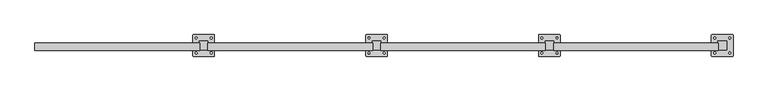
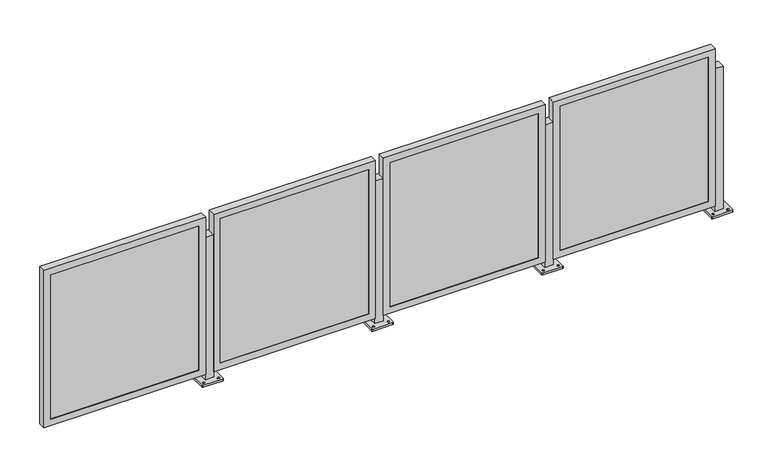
"""IFC4 building model written with IfcOpenShell, lengths in millimetres: railing geometry."""

from ifc_helpers import new_model, si_unit, frame, origin, place, context, project, spatial, polyline, circle_curve, outline, extrude, faceted_brep, source, transform, mapped, element, save
from ifc_brep_helpers import plane_surface, cylinder_surface, revolved_surface, advanced_brep


def railing_e755882f(model_context):
    return source(origin(), model_context, "Body", "SolidModel", [
        advanced_brep(
        [(-18838.3219217, 2095.5584175, 914.4), (-18838.3219217, 2044.7584175, 914.4), (-18787.5219217, 2044.7584175, 914.4), (-18787.5219217, 2095.5584175, 914.4), (-18876.4219219, 2009.8334586, 0.0), (-18876.4219219, 2130.4833765, 0.0), (-18873.2468937, 2133.6584047, 0.0), (-18752.5969497, 2133.6584047, 0.0), (-18749.4219216, 2130.4833765, 0.0), (-18749.4219216, 2009.8334586, 0.0), (-18752.5969497, 2006.6584304, 0.0), (-18873.2468937, 2006.6584304, 0.0), (-18857.3719093, 2020.1521629, 0.0), (-18857.3719093, 2031.2646753, 0.0), (-18857.3719202, 2109.0521673, 0.0), (-18857.3719202, 2120.1646489, 0.0), (-18768.4719083, 2020.1521644, 0.0), (-18768.4719083, 2031.2646751, 0.0), (-18768.4719192, 2109.0521688, 0.0), (-18768.4719192, 2120.1646486, 0.0), (-18838.3219217, 2095.5584175, 12.7), (-18838.3219217, 2044.7584175, 12.7), (-18787.5219217, 2044.7584175, 12.7), (-18787.5219217, 2095.5584175, 12.7), (-18876.4219219, 2009.8334586, 12.7), (-18873.2468937, 2006.6584304, 12.7), (-18752.5969497, 2006.6584304, 12.7), (-18749.4219216, 2009.8334586, 12.7), (-18749.4219216, 2130.4833765, 12.7), (-18752.5969497, 2133.6584047, 12.7), (-18873.2468937, 2133.6584047, 12.7), (-18876.4219219, 2130.4833765, 12.7), (-18857.3719093, 2020.1521629, 12.7), (-18857.3719093, 2031.2646753, 12.7), (-18857.3719202, 2109.0521673, 12.7), (-18857.3719202, 2120.1646489, 12.7), (-18768.4719083, 2020.1521644, 12.7), (-18768.4719083, 2031.2646751, 12.7), (-18768.4719192, 2109.0521688, 12.7), (-18768.4719192, 2120.1646486, 12.7)],
        [
            (0, 1),
            (1, 2),
            (2, 3),
            (3, 0),
            (4, 5),
            (5, 6, circle_curve(frame((-18873.2468937, 2130.4833765, 0.0), z_axis=(0.0, 0.0, -1.0), x_axis=(0.0, 1.0, 0.0)), 3.1750282)),
            (6, 7),
            (7, 8, circle_curve(frame((-18752.5969497, 2130.4833765, 0.0), z_axis=(0.0, 0.0, -1.0), x_axis=(0.0, 1.0, 0.0)), 3.1750282)),
            (8, 9),
            (9, 10, circle_curve(frame((-18752.5969497, 2009.8334586, 0.0), z_axis=(0.0, 0.0, -1.0), x_axis=(0.0, 1.0, 0.0)), 3.1750282)),
            (10, 11),
            (11, 4, circle_curve(frame((-18873.2468937, 2009.8334586, 0.0), z_axis=(0.0, 0.0, -1.0), x_axis=(0.0, 1.0, 0.0)), 3.1750282)),
            (12, 13, circle_curve(frame((-18857.3719093, 2025.7084191, 0.0), z_axis=(0.0, 0.0, 1.0), x_axis=(0.0, 1.0, 0.0)), 5.5562562)),
            (13, 12, circle_curve(frame((-18857.3719093, 2025.7084191, 0.0), z_axis=(0.0, 0.0, 1.0), x_axis=(0.0, 1.0, 0.0)), 5.5562562)),
            (14, 15, circle_curve(frame((-18857.3719202, 2114.6084081, 0.0), z_axis=(0.0, 0.0, 1.0), x_axis=(0.0, 1.0, 0.0)), 5.5562408)),
            (15, 14, circle_curve(frame((-18857.3719202, 2114.6084081, 0.0), z_axis=(0.0, 0.0, 1.0), x_axis=(0.0, 1.0, 0.0)), 5.5562408)),
            (16, 17, circle_curve(frame((-18768.4719083, 2025.7084197, 0.0), z_axis=(0.0, 0.0, 1.0), x_axis=(0.0, 1.0, 0.0)), 5.5562553)),
            (17, 16, circle_curve(frame((-18768.4719083, 2025.7084197, 0.0), z_axis=(0.0, 0.0, 1.0), x_axis=(0.0, 1.0, 0.0)), 5.5562553)),
            (18, 19, circle_curve(frame((-18768.4719192, 2114.6084087, 0.0), z_axis=(0.0, 0.0, 1.0), x_axis=(0.0, 1.0, 0.0)), 5.5562399)),
            (19, 18, circle_curve(frame((-18768.4719192, 2114.6084087, 0.0), z_axis=(0.0, 0.0, 1.0), x_axis=(0.0, 1.0, 0.0)), 5.5562399)),
            (0, 20),
            (20, 21),
            (21, 1),
            (21, 22),
            (22, 2),
            (22, 23),
            (23, 3),
            (23, 20),
            (24, 25, circle_curve(frame((-18873.2468937, 2009.8334586, 12.7), z_axis=(0.0, 0.0, 1.0), x_axis=(0.0, 1.0, 0.0)), 3.1750282)),
            (25, 26),
            (26, 27, circle_curve(frame((-18752.5969497, 2009.8334586, 12.7), z_axis=(0.0, 0.0, 1.0), x_axis=(0.0, 1.0, 0.0)), 3.1750282)),
            (27, 28),
            (28, 29, circle_curve(frame((-18752.5969497, 2130.4833765, 12.7), z_axis=(0.0, 0.0, 1.0), x_axis=(0.0, 1.0, 0.0)), 3.1750282)),
            (29, 30),
            (30, 31, circle_curve(frame((-18873.2468937, 2130.4833765, 12.7), z_axis=(0.0, 0.0, 1.0), x_axis=(0.0, 1.0, 0.0)), 3.1750282)),
            (31, 24),
            (32, 33, circle_curve(frame((-18857.3719093, 2025.7084191, 12.7), z_axis=(0.0, 0.0, -1.0), x_axis=(0.0, 1.0, 0.0)), 5.5562562)),
            (33, 32, circle_curve(frame((-18857.3719093, 2025.7084191, 12.7), z_axis=(0.0, 0.0, -1.0), x_axis=(0.0, 1.0, 0.0)), 5.5562562)),
            (34, 35, circle_curve(frame((-18857.3719202, 2114.6084081, 12.7), z_axis=(0.0, 0.0, -1.0), x_axis=(0.0, 1.0, 0.0)), 5.5562408)),
            (35, 34, circle_curve(frame((-18857.3719202, 2114.6084081, 12.7), z_axis=(0.0, 0.0, -1.0), x_axis=(0.0, 1.0, 0.0)), 5.5562408)),
            (36, 37, circle_curve(frame((-18768.4719083, 2025.7084197, 12.7), z_axis=(0.0, 0.0, -1.0), x_axis=(0.0, 1.0, 0.0)), 5.5562553)),
            (37, 36, circle_curve(frame((-18768.4719083, 2025.7084197, 12.7), z_axis=(0.0, 0.0, -1.0), x_axis=(0.0, 1.0, 0.0)), 5.5562553)),
            (38, 39, circle_curve(frame((-18768.4719192, 2114.6084087, 12.7), z_axis=(0.0, 0.0, -1.0), x_axis=(0.0, 1.0, 0.0)), 5.5562399)),
            (39, 38, circle_curve(frame((-18768.4719192, 2114.6084087, 12.7), z_axis=(0.0, 0.0, -1.0), x_axis=(0.0, 1.0, 0.0)), 5.5562399)),
            (24, 4),
            (11, 25),
            (10, 26),
            (9, 27),
            (8, 28),
            (7, 29),
            (6, 30),
            (5, 31),
            (32, 12),
            (13, 33),
            (34, 14),
            (15, 35),
            (36, 16),
            (17, 37),
            (38, 18),
            (19, 39),
        ],
        [
            plane_surface(frame((-18838.3219217, 2044.7584175, 914.4), z_axis=(0.0, 0.0, 1.0), x_axis=(0.0, -1.0, 0.0))),
            plane_surface(frame((-18838.3219217, 2044.7584175, 0.0), z_axis=(0.0, 0.0, -1.0), x_axis=(0.0, 1.0, 0.0))),
            plane_surface(frame((-18838.3219217, 2095.5584175, 914.4), z_axis=(-1.0, 0.0, 0.0), x_axis=(0.0, 0.0, -1.0))),
            plane_surface(frame((-18838.3219217, 2044.7584175, 914.4), z_axis=(0.0, -1.0, 0.0), x_axis=(0.0, 0.0, -1.0))),
            plane_surface(frame((-18787.5219217, 2044.7584175, 914.4), z_axis=(1.0, 0.0, 0.0), x_axis=(0.0, 0.0, -1.0))),
            plane_surface(frame((-18787.5219217, 2095.5584175, 914.4), z_axis=(0.0, 1.0, 0.0), x_axis=(0.0, 0.0, -1.0))),
            plane_surface(frame((-18873.2468937, 2013.0084867, 12.7), z_axis=(0.0, 0.0, 1.0), x_axis=(-1.0, 0.0, 0.0))),
            cylinder_surface(frame((-18873.2468937, 2009.8334586, 0.0), z_axis=(0.0, 0.0, 1.0), x_axis=(0.0, 1.0, 0.0)), 3.1750282),
            plane_surface(frame((-18873.2468937, 2006.6584304, 12.7), z_axis=(1.1945386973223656e-12, -1.0, 0.0), x_axis=(0.0, 0.0, -1.0))),
            cylinder_surface(frame((-18752.5969497, 2009.8334586, 0.0), z_axis=(0.0, 0.0, 1.0), x_axis=(0.0, 1.0, 0.0)), 3.1750282),
            plane_surface(frame((-18749.4219216, 2009.8334586, 12.7), z_axis=(1.0, 0.0, 0.0), x_axis=(0.0, 0.0, -1.0))),
            cylinder_surface(frame((-18752.5969497, 2130.4833765, 0.0), z_axis=(0.0, 0.0, 1.0), x_axis=(0.0, 1.0, 0.0)), 3.1750282),
            plane_surface(frame((-18752.5969497, 2133.6584047, 12.7), z_axis=(-1.1946088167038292e-12, 1.0, 0.0), x_axis=(0.0, 0.0, -1.0))),
            cylinder_surface(frame((-18873.2468937, 2130.4833765, 0.0), z_axis=(0.0, 0.0, 1.0), x_axis=(0.0, 1.0, 0.0)), 3.1750282),
            plane_surface(frame((-18876.4219219, 2130.4833765, 12.7), z_axis=(-1.0, 0.0, 0.0), x_axis=(0.0, 0.0, -1.0))),
            revolved_surface(polyline([(-18857.3719093, 2031.2646753, 0.0), (-18857.3719093, 2031.2646753, 12.7)]), (-18857.3719093, 2025.7084191, 0.0), (0.0, 0.0, -1.0)),
            revolved_surface(polyline([(-18857.3719202, 2120.1646489, 0.0), (-18857.3719202, 2120.1646489, 12.7)]), (-18857.3719202, 2114.6084081, 0.0), (0.0, 0.0, -1.0)),
            revolved_surface(polyline([(-18768.4719083, 2031.264675, 0.0), (-18768.4719083, 2031.264675, 12.7)]), (-18768.4719083, 2025.7084197, 0.0), (0.0, 0.0, -1.0)),
            revolved_surface(polyline([(-18768.4719192, 2120.1646486, 0.0), (-18768.4719192, 2120.1646486, 12.7)]), (-18768.4719192, 2114.6084087, 0.0), (0.0, 0.0, -1.0)),
        ],
        [
            (0, [[1, 2, 3, 4]]),
            (1, [[5, 6, 7, 8, 9, 10, 11, 12], [13, 14], [15, 16], [17, 18], [19, 20]]),
            (2, [[-1, 21, 22, 23]]),
            (3, [[-2, -23, 24, 25]]),
            (4, [[-3, -25, 26, 27]]),
            (5, [[-4, -27, 28, -21]]),
            (6, [[29, 30, 31, 32, 33, 34, 35, 36], [-22, -28, -26, -24], [37, 38], [39, 40], [41, 42], [43, 44]]),
            (7, [[-29, 45, -12, 46]]),
            (8, [[-30, -46, -11, 47]]),
            (9, [[-31, -47, -10, 48]]),
            (10, [[-32, -48, -9, 49]]),
            (11, [[-33, -49, -8, 50]]),
            (12, [[-34, -50, -7, 51]]),
            (13, [[-35, -51, -6, 52]]),
            (14, [[-36, -52, -5, -45]]),
            (15, [[-37, 53, -14, 54]]),
            (15, [[-38, -54, -13, -53]]),
            (16, [[-39, 55, -16, 56]]),
            (16, [[-40, -56, -15, -55]]),
            (17, [[-41, 57, -18, 58]]),
            (17, [[-42, -58, -17, -57]]),
            (18, [[-43, 59, -20, 60]]),
            (18, [[-44, -60, -19, -59]]),
        ],
    ),
        faceted_brep([(-19804.7263751, 2042.0152175, 47.625), (-18836.3513751, 2042.0152175, 47.625), (-18836.3513751, 2042.0152175, 1044.575), (-19804.7263751, 2042.0152175, 1044.575), (-19763.4513751, 2042.0152175, 1003.3), (-18877.6263751, 2042.0152175, 1003.3), (-18877.6263751, 2042.0152175, 88.9), (-19763.4513751, 2042.0152175, 88.9), (-19763.4513751, 2044.7584175, 1003.3), (-19763.4513751, 2044.7584175, 88.9), (-19804.7263751, 2085.8885141, 1044.575), (-19804.7263751, 2085.8885141, 47.625), (-19801.5513751, 2085.8885141, 1041.4), (-19801.5513751, 2044.7584175, 1041.4), (-19801.5513751, 2044.7584175, 50.8), (-19801.5513751, 2085.8885141, 50.8), (-18877.6263751, 2044.7584175, 88.9), (-18836.3513751, 2085.8885141, 47.625), (-18839.5263751, 2044.7584175, 50.8), (-18839.5263751, 2085.8885141, 50.8), (-18877.6263751, 2044.7584175, 1003.3), (-18836.3513751, 2085.8885141, 1044.575), (-18839.5263751, 2044.7584175, 1041.4), (-18839.5263751, 2085.8885141, 1041.4)], [[[0, 1, 2, 3], [4, 5, 6, 7]], [[8, 4, 7, 9]], [[3, 10, 11, 0]], [[12, 13, 14, 15]], [[9, 7, 6, 16]], [[0, 11, 17, 1]], [[15, 14, 18, 19]], [[16, 6, 5, 20]], [[1, 17, 21, 2]], [[19, 18, 22, 23]], [[20, 5, 4, 8]], [[10, 21, 17, 11], [15, 19, 23, 12]], [[2, 21, 10, 3]], [[13, 22, 18, 14], [9, 16, 20, 8]], [[23, 22, 13, 12]]]),
        extrude(outline(polyline([(-19801.5513751, 2054.2834175), (-18839.5263751, 2054.2834175), (-18839.5263751, 2044.7584175), (-19801.5513751, 2044.7584175), (-19801.5513751, 2054.2834175)])), frame((0.0, 0.0, 50.8), z_axis=(0.0, 0.0, 1.0), x_axis=(1.0, 0.0, 0.0)), (0.0, 0.0, 1.0), 990.6),
        advanced_brep(
        [(-19854.3219217, 2095.5584175, 914.4), (-19854.3219217, 2044.7584175, 914.4), (-19803.5219217, 2044.7584175, 914.4), (-19803.5219217, 2095.5584175, 914.4), (-19892.4219219, 2009.8334586, 0.0), (-19892.4219219, 2130.4833765, 0.0), (-19889.2468937, 2133.6584047, 0.0), (-19768.5969497, 2133.6584047, 0.0), (-19765.4219216, 2130.4833765, 0.0), (-19765.4219216, 2009.8334586, 0.0), (-19768.5969497, 2006.6584304, 0.0), (-19889.2468937, 2006.6584304, 0.0), (-19873.3719093, 2020.1521629, 0.0), (-19873.3719093, 2031.2646753, 0.0), (-19873.3719202, 2109.0521673, 0.0), (-19873.3719202, 2120.1646489, 0.0), (-19784.4719083, 2020.1521644, 0.0), (-19784.4719083, 2031.2646751, 0.0), (-19784.4719192, 2109.0521688, 0.0), (-19784.4719192, 2120.1646486, 0.0), (-19854.3219217, 2095.5584175, 12.7), (-19854.3219217, 2044.7584175, 12.7), (-19803.5219217, 2044.7584175, 12.7), (-19803.5219217, 2095.5584175, 12.7), (-19892.4219219, 2009.8334586, 12.7), (-19889.2468937, 2006.6584304, 12.7), (-19768.5969497, 2006.6584304, 12.7), (-19765.4219216, 2009.8334586, 12.7), (-19765.4219216, 2130.4833765, 12.7), (-19768.5969497, 2133.6584047, 12.7), (-19889.2468937, 2133.6584047, 12.7), (-19892.4219219, 2130.4833765, 12.7), (-19873.3719093, 2020.1521629, 12.7), (-19873.3719093, 2031.2646753, 12.7), (-19873.3719202, 2109.0521673, 12.7), (-19873.3719202, 2120.1646489, 12.7), (-19784.4719083, 2020.1521644, 12.7), (-19784.4719083, 2031.2646751, 12.7), (-19784.4719192, 2109.0521688, 12.7), (-19784.4719192, 2120.1646486, 12.7)],
        [
            (0, 1),
            (1, 2),
            (2, 3),
            (3, 0),
            (4, 5),
            (5, 6, circle_curve(frame((-19889.2468937, 2130.4833765, 0.0), z_axis=(0.0, 0.0, -1.0), x_axis=(0.0, 1.0, 0.0)), 3.1750282)),
            (6, 7),
            (7, 8, circle_curve(frame((-19768.5969497, 2130.4833765, 0.0), z_axis=(0.0, 0.0, -1.0), x_axis=(0.0, 1.0, 0.0)), 3.1750282)),
            (8, 9),
            (9, 10, circle_curve(frame((-19768.5969497, 2009.8334586, 0.0), z_axis=(0.0, 0.0, -1.0), x_axis=(0.0, 1.0, 0.0)), 3.1750282)),
            (10, 11),
            (11, 4, circle_curve(frame((-19889.2468937, 2009.8334586, 0.0), z_axis=(0.0, 0.0, -1.0), x_axis=(0.0, 1.0, 0.0)), 3.1750282)),
            (12, 13, circle_curve(frame((-19873.3719093, 2025.7084191, 0.0), z_axis=(0.0, 0.0, 1.0), x_axis=(0.0, 1.0, 0.0)), 5.5562562)),
            (13, 12, circle_curve(frame((-19873.3719093, 2025.7084191, 0.0), z_axis=(0.0, 0.0, 1.0), x_axis=(0.0, 1.0, 0.0)), 5.5562562)),
            (14, 15, circle_curve(frame((-19873.3719202, 2114.6084081, 0.0), z_axis=(0.0, 0.0, 1.0), x_axis=(0.0, 1.0, 0.0)), 5.5562408)),
            (15, 14, circle_curve(frame((-19873.3719202, 2114.6084081, 0.0), z_axis=(0.0, 0.0, 1.0), x_axis=(0.0, 1.0, 0.0)), 5.5562408)),
            (16, 17, circle_curve(frame((-19784.4719083, 2025.7084197, 0.0), z_axis=(0.0, 0.0, 1.0), x_axis=(0.0, 1.0, 0.0)), 5.5562553)),
            (17, 16, circle_curve(frame((-19784.4719083, 2025.7084197, 0.0), z_axis=(0.0, 0.0, 1.0), x_axis=(0.0, 1.0, 0.0)), 5.5562553)),
            (18, 19, circle_curve(frame((-19784.4719192, 2114.6084087, 0.0), z_axis=(0.0, 0.0, 1.0), x_axis=(0.0, 1.0, 0.0)), 5.5562399)),
            (19, 18, circle_curve(frame((-19784.4719192, 2114.6084087, 0.0), z_axis=(0.0, 0.0, 1.0), x_axis=(0.0, 1.0, 0.0)), 5.5562399)),
            (0, 20),
            (20, 21),
            (21, 1),
            (21, 22),
            (22, 2),
            (22, 23),
            (23, 3),
            (23, 20),
            (24, 25, circle_curve(frame((-19889.2468937, 2009.8334586, 12.7), z_axis=(0.0, 0.0, 1.0), x_axis=(0.0, 1.0, 0.0)), 3.1750282)),
            (25, 26),
            (26, 27, circle_curve(frame((-19768.5969497, 2009.8334586, 12.7), z_axis=(0.0, 0.0, 1.0), x_axis=(0.0, 1.0, 0.0)), 3.1750282)),
            (27, 28),
            (28, 29, circle_curve(frame((-19768.5969497, 2130.4833765, 12.7), z_axis=(0.0, 0.0, 1.0), x_axis=(0.0, 1.0, 0.0)), 3.1750282)),
            (29, 30),
            (30, 31, circle_curve(frame((-19889.2468937, 2130.4833765, 12.7), z_axis=(0.0, 0.0, 1.0), x_axis=(0.0, 1.0, 0.0)), 3.1750282)),
            (31, 24),
            (32, 33, circle_curve(frame((-19873.3719093, 2025.7084191, 12.7), z_axis=(0.0, 0.0, -1.0), x_axis=(0.0, 1.0, 0.0)), 5.5562562)),
            (33, 32, circle_curve(frame((-19873.3719093, 2025.7084191, 12.7), z_axis=(0.0, 0.0, -1.0), x_axis=(0.0, 1.0, 0.0)), 5.5562562)),
            (34, 35, circle_curve(frame((-19873.3719202, 2114.6084081, 12.7), z_axis=(0.0, 0.0, -1.0), x_axis=(0.0, 1.0, 0.0)), 5.5562408)),
            (35, 34, circle_curve(frame((-19873.3719202, 2114.6084081, 12.7), z_axis=(0.0, 0.0, -1.0), x_axis=(0.0, 1.0, 0.0)), 5.5562408)),
            (36, 37, circle_curve(frame((-19784.4719083, 2025.7084197, 12.7), z_axis=(0.0, 0.0, -1.0), x_axis=(0.0, 1.0, 0.0)), 5.5562553)),
            (37, 36, circle_curve(frame((-19784.4719083, 2025.7084197, 12.7), z_axis=(0.0, 0.0, -1.0), x_axis=(0.0, 1.0, 0.0)), 5.5562553)),
            (38, 39, circle_curve(frame((-19784.4719192, 2114.6084087, 12.7), z_axis=(0.0, 0.0, -1.0), x_axis=(0.0, 1.0, 0.0)), 5.5562399)),
            (39, 38, circle_curve(frame((-19784.4719192, 2114.6084087, 12.7), z_axis=(0.0, 0.0, -1.0), x_axis=(0.0, 1.0, 0.0)), 5.5562399)),
            (24, 4),
            (11, 25),
            (10, 26),
            (9, 27),
            (8, 28),
            (7, 29),
            (6, 30),
            (5, 31),
            (32, 12),
            (13, 33),
            (34, 14),
            (15, 35),
            (36, 16),
            (17, 37),
            (38, 18),
            (19, 39),
        ],
        [
            plane_surface(frame((-19854.3219217, 2044.7584175, 914.4), z_axis=(0.0, 0.0, 1.0), x_axis=(0.0, -1.0, 0.0))),
            plane_surface(frame((-19854.3219217, 2044.7584175, 0.0), z_axis=(0.0, 0.0, -1.0), x_axis=(0.0, 1.0, 0.0))),
            plane_surface(frame((-19854.3219217, 2095.5584175, 914.4), z_axis=(-1.0, 0.0, 0.0), x_axis=(0.0, 0.0, -1.0))),
            plane_surface(frame((-19854.3219217, 2044.7584175, 914.4), z_axis=(0.0, -1.0, 0.0), x_axis=(0.0, 0.0, -1.0))),
            plane_surface(frame((-19803.5219217, 2044.7584175, 914.4), z_axis=(1.0, 0.0, 0.0), x_axis=(0.0, 0.0, -1.0))),
            plane_surface(frame((-19803.5219217, 2095.5584175, 914.4), z_axis=(0.0, 1.0, 0.0), x_axis=(0.0, 0.0, -1.0))),
            plane_surface(frame((-19889.2468937, 2013.0084867, 12.7), z_axis=(0.0, 0.0, 1.0), x_axis=(-1.0, 0.0, 0.0))),
            cylinder_surface(frame((-19889.2468937, 2009.8334586, 0.0), z_axis=(0.0, 0.0, 1.0), x_axis=(0.0, 1.0, 0.0)), 3.1750282),
            plane_surface(frame((-19889.2468937, 2006.6584304, 12.7), z_axis=(1.1945386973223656e-12, -1.0, 0.0), x_axis=(0.0, 0.0, -1.0))),
            cylinder_surface(frame((-19768.5969497, 2009.8334586, 0.0), z_axis=(0.0, 0.0, 1.0), x_axis=(0.0, 1.0, 0.0)), 3.1750282),
            plane_surface(frame((-19765.4219216, 2009.8334586, 12.7), z_axis=(1.0, 0.0, 0.0), x_axis=(0.0, 0.0, -1.0))),
            cylinder_surface(frame((-19768.5969497, 2130.4833765, 0.0), z_axis=(0.0, 0.0, 1.0), x_axis=(0.0, 1.0, 0.0)), 3.1750282),
            plane_surface(frame((-19768.5969497, 2133.6584047, 12.7), z_axis=(-1.1946088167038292e-12, 1.0, 0.0), x_axis=(0.0, 0.0, -1.0))),
            cylinder_surface(frame((-19889.2468937, 2130.4833765, 0.0), z_axis=(0.0, 0.0, 1.0), x_axis=(0.0, 1.0, 0.0)), 3.1750282),
            plane_surface(frame((-19892.4219219, 2130.4833765, 12.7), z_axis=(-1.0, 0.0, 0.0), x_axis=(0.0, 0.0, -1.0))),
            revolved_surface(polyline([(-19873.3719093, 2031.2646753, 0.0), (-19873.3719093, 2031.2646753, 12.7)]), (-19873.3719093, 2025.7084191, 0.0), (0.0, 0.0, -1.0)),
            revolved_surface(polyline([(-19873.3719202, 2120.1646489, 0.0), (-19873.3719202, 2120.1646489, 12.7)]), (-19873.3719202, 2114.6084081, 0.0), (0.0, 0.0, -1.0)),
            revolved_surface(polyline([(-19784.4719083, 2031.264675, 0.0), (-19784.4719083, 2031.264675, 12.7)]), (-19784.4719083, 2025.7084197, 0.0), (0.0, 0.0, -1.0)),
            revolved_surface(polyline([(-19784.4719192, 2120.1646486, 0.0), (-19784.4719192, 2120.1646486, 12.7)]), (-19784.4719192, 2114.6084087, 0.0), (0.0, 0.0, -1.0)),
        ],
        [
            (0, [[1, 2, 3, 4]]),
            (1, [[5, 6, 7, 8, 9, 10, 11, 12], [13, 14], [15, 16], [17, 18], [19, 20]]),
            (2, [[-1, 21, 22, 23]]),
            (3, [[-2, -23, 24, 25]]),
            (4, [[-3, -25, 26, 27]]),
            (5, [[-4, -27, 28, -21]]),
            (6, [[29, 30, 31, 32, 33, 34, 35, 36], [-22, -28, -26, -24], [37, 38], [39, 40], [41, 42], [43, 44]]),
            (7, [[-29, 45, -12, 46]]),
            (8, [[-30, -46, -11, 47]]),
            (9, [[-31, -47, -10, 48]]),
            (10, [[-32, -48, -9, 49]]),
            (11, [[-33, -49, -8, 50]]),
            (12, [[-34, -50, -7, 51]]),
            (13, [[-35, -51, -6, 52]]),
            (14, [[-36, -52, -5, -45]]),
            (15, [[-37, 53, -14, 54]]),
            (15, [[-38, -54, -13, -53]]),
            (16, [[-39, 55, -16, 56]]),
            (16, [[-40, -56, -15, -55]]),
            (17, [[-41, 57, -18, 58]]),
            (17, [[-42, -58, -17, -57]]),
            (18, [[-43, 59, -20, 60]]),
            (18, [[-44, -60, -19, -59]]),
        ],
    ),
        faceted_brep([(-20820.7263751, 2042.0152175, 47.625), (-19852.3513751, 2042.0152175, 47.625), (-19852.3513751, 2042.0152175, 1044.575), (-20820.7263751, 2042.0152175, 1044.575), (-20779.4513751, 2042.0152175, 1003.3), (-19893.6263751, 2042.0152175, 1003.3), (-19893.6263751, 2042.0152175, 88.9), (-20779.4513751, 2042.0152175, 88.9), (-20779.4513751, 2044.7584175, 1003.3), (-20779.4513751, 2044.7584175, 88.9), (-20820.7263751, 2085.8885141, 1044.575), (-20820.7263751, 2085.8885141, 47.625), (-20817.5513751, 2085.8885141, 1041.4), (-20817.5513751, 2044.7584175, 1041.4), (-20817.5513751, 2044.7584175, 50.8), (-20817.5513751, 2085.8885141, 50.8), (-19893.6263751, 2044.7584175, 88.9), (-19852.3513751, 2085.8885141, 47.625), (-19855.5263751, 2044.7584175, 50.8), (-19855.5263751, 2085.8885141, 50.8), (-19893.6263751, 2044.7584175, 1003.3), (-19852.3513751, 2085.8885141, 1044.575), (-19855.5263751, 2044.7584175, 1041.4), (-19855.5263751, 2085.8885141, 1041.4)], [[[0, 1, 2, 3], [4, 5, 6, 7]], [[8, 4, 7, 9]], [[3, 10, 11, 0]], [[12, 13, 14, 15]], [[9, 7, 6, 16]], [[0, 11, 17, 1]], [[15, 14, 18, 19]], [[16, 6, 5, 20]], [[1, 17, 21, 2]], [[19, 18, 22, 23]], [[20, 5, 4, 8]], [[10, 21, 17, 11], [15, 19, 23, 12]], [[2, 21, 10, 3]], [[13, 22, 18, 14], [9, 16, 20, 8]], [[23, 22, 13, 12]]]),
        extrude(outline(polyline([(-20817.5513751, 2054.2834175), (-19855.5263751, 2054.2834175), (-19855.5263751, 2044.7584175), (-20817.5513751, 2044.7584175), (-20817.5513751, 2054.2834175)])), frame((0.0, 0.0, 50.8), z_axis=(0.0, 0.0, 1.0), x_axis=(1.0, 0.0, 0.0)), (0.0, 0.0, 1.0), 990.6),
        advanced_brep(
        [(-20870.3219217, 2095.5584175, 914.4), (-20870.3219217, 2044.7584175, 914.4), (-20819.5219217, 2044.7584175, 914.4), (-20819.5219217, 2095.5584175, 914.4), (-20908.4219219, 2009.8334586, 0.0), (-20908.4219219, 2130.4833765, 0.0), (-20905.2468937, 2133.6584047, 0.0), (-20784.5969497, 2133.6584047, 0.0), (-20781.4219216, 2130.4833765, 0.0), (-20781.4219216, 2009.8334586, 0.0), (-20784.5969497, 2006.6584304, 0.0), (-20905.2468937, 2006.6584304, 0.0), (-20889.3719093, 2020.1521629, 0.0), (-20889.3719093, 2031.2646753, 0.0), (-20889.3719202, 2109.0521673, 0.0), (-20889.3719202, 2120.1646489, 0.0), (-20800.4719083, 2020.1521644, 0.0), (-20800.4719083, 2031.2646751, 0.0), (-20800.4719192, 2109.0521688, 0.0), (-20800.4719192, 2120.1646486, 0.0), (-20870.3219217, 2095.5584175, 12.7), (-20870.3219217, 2044.7584175, 12.7), (-20819.5219217, 2044.7584175, 12.7), (-20819.5219217, 2095.5584175, 12.7), (-20908.4219219, 2009.8334586, 12.7), (-20905.2468937, 2006.6584304, 12.7), (-20784.5969497, 2006.6584304, 12.7), (-20781.4219216, 2009.8334586, 12.7), (-20781.4219216, 2130.4833765, 12.7), (-20784.5969497, 2133.6584047, 12.7), (-20905.2468937, 2133.6584047, 12.7), (-20908.4219219, 2130.4833765, 12.7), (-20889.3719093, 2020.1521629, 12.7), (-20889.3719093, 2031.2646753, 12.7), (-20889.3719202, 2109.0521673, 12.7), (-20889.3719202, 2120.1646489, 12.7), (-20800.4719083, 2020.1521644, 12.7), (-20800.4719083, 2031.2646751, 12.7), (-20800.4719192, 2109.0521688, 12.7), (-20800.4719192, 2120.1646486, 12.7)],
        [
            (0, 1),
            (1, 2),
            (2, 3),
            (3, 0),
            (4, 5),
            (5, 6, circle_curve(frame((-20905.2468937, 2130.4833765, 0.0), z_axis=(0.0, 0.0, -1.0), x_axis=(0.0, 1.0, 0.0)), 3.1750282)),
            (6, 7),
            (7, 8, circle_curve(frame((-20784.5969497, 2130.4833765, 0.0), z_axis=(0.0, 0.0, -1.0), x_axis=(0.0, 1.0, 0.0)), 3.1750282)),
            (8, 9),
            (9, 10, circle_curve(frame((-20784.5969497, 2009.8334586, 0.0), z_axis=(0.0, 0.0, -1.0), x_axis=(0.0, 1.0, 0.0)), 3.1750282)),
            (10, 11),
            (11, 4, circle_curve(frame((-20905.2468937, 2009.8334586, 0.0), z_axis=(0.0, 0.0, -1.0), x_axis=(0.0, 1.0, 0.0)), 3.1750282)),
            (12, 13, circle_curve(frame((-20889.3719093, 2025.7084191, 0.0), z_axis=(0.0, 0.0, 1.0), x_axis=(0.0, 1.0, 0.0)), 5.5562562)),
            (13, 12, circle_curve(frame((-20889.3719093, 2025.7084191, 0.0), z_axis=(0.0, 0.0, 1.0), x_axis=(0.0, 1.0, 0.0)), 5.5562562)),
            (14, 15, circle_curve(frame((-20889.3719202, 2114.6084081, 0.0), z_axis=(0.0, 0.0, 1.0), x_axis=(0.0, 1.0, 0.0)), 5.5562408)),
            (15, 14, circle_curve(frame((-20889.3719202, 2114.6084081, 0.0), z_axis=(0.0, 0.0, 1.0), x_axis=(0.0, 1.0, 0.0)), 5.5562408)),
            (16, 17, circle_curve(frame((-20800.4719083, 2025.7084197, 0.0), z_axis=(0.0, 0.0, 1.0), x_axis=(0.0, 1.0, 0.0)), 5.5562553)),
            (17, 16, circle_curve(frame((-20800.4719083, 2025.7084197, 0.0), z_axis=(0.0, 0.0, 1.0), x_axis=(0.0, 1.0, 0.0)), 5.5562553)),
            (18, 19, circle_curve(frame((-20800.4719192, 2114.6084087, 0.0), z_axis=(0.0, 0.0, 1.0), x_axis=(0.0, 1.0, 0.0)), 5.5562399)),
            (19, 18, circle_curve(frame((-20800.4719192, 2114.6084087, 0.0), z_axis=(0.0, 0.0, 1.0), x_axis=(0.0, 1.0, 0.0)), 5.5562399)),
            (0, 20),
            (20, 21),
            (21, 1),
            (21, 22),
            (22, 2),
            (22, 23),
            (23, 3),
            (23, 20),
            (24, 25, circle_curve(frame((-20905.2468937, 2009.8334586, 12.7), z_axis=(0.0, 0.0, 1.0), x_axis=(0.0, 1.0, 0.0)), 3.1750282)),
            (25, 26),
            (26, 27, circle_curve(frame((-20784.5969497, 2009.8334586, 12.7), z_axis=(0.0, 0.0, 1.0), x_axis=(0.0, 1.0, 0.0)), 3.1750282)),
            (27, 28),
            (28, 29, circle_curve(frame((-20784.5969497, 2130.4833765, 12.7), z_axis=(0.0, 0.0, 1.0), x_axis=(0.0, 1.0, 0.0)), 3.1750282)),
            (29, 30),
            (30, 31, circle_curve(frame((-20905.2468937, 2130.4833765, 12.7), z_axis=(0.0, 0.0, 1.0), x_axis=(0.0, 1.0, 0.0)), 3.1750282)),
            (31, 24),
            (32, 33, circle_curve(frame((-20889.3719093, 2025.7084191, 12.7), z_axis=(0.0, 0.0, -1.0), x_axis=(0.0, 1.0, 0.0)), 5.5562562)),
            (33, 32, circle_curve(frame((-20889.3719093, 2025.7084191, 12.7), z_axis=(0.0, 0.0, -1.0), x_axis=(0.0, 1.0, 0.0)), 5.5562562)),
            (34, 35, circle_curve(frame((-20889.3719202, 2114.6084081, 12.7), z_axis=(0.0, 0.0, -1.0), x_axis=(0.0, 1.0, 0.0)), 5.5562408)),
            (35, 34, circle_curve(frame((-20889.3719202, 2114.6084081, 12.7), z_axis=(0.0, 0.0, -1.0), x_axis=(0.0, 1.0, 0.0)), 5.5562408)),
            (36, 37, circle_curve(frame((-20800.4719083, 2025.7084197, 12.7), z_axis=(0.0, 0.0, -1.0), x_axis=(0.0, 1.0, 0.0)), 5.5562553)),
            (37, 36, circle_curve(frame((-20800.4719083, 2025.7084197, 12.7), z_axis=(0.0, 0.0, -1.0), x_axis=(0.0, 1.0, 0.0)), 5.5562553)),
            (38, 39, circle_curve(frame((-20800.4719192, 2114.6084087, 12.7), z_axis=(0.0, 0.0, -1.0), x_axis=(0.0, 1.0, 0.0)), 5.5562399)),
            (39, 38, circle_curve(frame((-20800.4719192, 2114.6084087, 12.7), z_axis=(0.0, 0.0, -1.0), x_axis=(0.0, 1.0, 0.0)), 5.5562399)),
            (24, 4),
            (11, 25),
            (10, 26),
            (9, 27),
            (8, 28),
            (7, 29),
            (6, 30),
            (5, 31),
            (32, 12),
            (13, 33),
            (34, 14),
            (15, 35),
            (36, 16),
            (17, 37),
            (38, 18),
            (19, 39),
        ],
        [
            plane_surface(frame((-20870.3219217, 2044.7584175, 914.4), z_axis=(0.0, 0.0, 1.0), x_axis=(0.0, -1.0, 0.0))),
            plane_surface(frame((-20870.3219217, 2044.7584175, 0.0), z_axis=(0.0, 0.0, -1.0), x_axis=(0.0, 1.0, 0.0))),
            plane_surface(frame((-20870.3219217, 2095.5584175, 914.4), z_axis=(-1.0, 0.0, 0.0), x_axis=(0.0, 0.0, -1.0))),
            plane_surface(frame((-20870.3219217, 2044.7584175, 914.4), z_axis=(0.0, -1.0, 0.0), x_axis=(0.0, 0.0, -1.0))),
            plane_surface(frame((-20819.5219217, 2044.7584175, 914.4), z_axis=(1.0, 0.0, 0.0), x_axis=(0.0, 0.0, -1.0))),
            plane_surface(frame((-20819.5219217, 2095.5584175, 914.4), z_axis=(0.0, 1.0, 0.0), x_axis=(0.0, 0.0, -1.0))),
            plane_surface(frame((-20905.2468937, 2013.0084867, 12.7), z_axis=(0.0, 0.0, 1.0), x_axis=(-1.0, 0.0, 0.0))),
            cylinder_surface(frame((-20905.2468937, 2009.8334586, 0.0), z_axis=(0.0, 0.0, 1.0), x_axis=(0.0, 1.0, 0.0)), 3.1750282),
            plane_surface(frame((-20905.2468937, 2006.6584304, 12.7), z_axis=(1.1945386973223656e-12, -1.0, 0.0), x_axis=(0.0, 0.0, -1.0))),
            cylinder_surface(frame((-20784.5969497, 2009.8334586, 0.0), z_axis=(0.0, 0.0, 1.0), x_axis=(0.0, 1.0, 0.0)), 3.1750282),
            plane_surface(frame((-20781.4219216, 2009.8334586, 12.7), z_axis=(1.0, 0.0, 0.0), x_axis=(0.0, 0.0, -1.0))),
            cylinder_surface(frame((-20784.5969497, 2130.4833765, 0.0), z_axis=(0.0, 0.0, 1.0), x_axis=(0.0, 1.0, 0.0)), 3.1750282),
            plane_surface(frame((-20784.5969497, 2133.6584047, 12.7), z_axis=(-1.1946088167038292e-12, 1.0, 0.0), x_axis=(0.0, 0.0, -1.0))),
            cylinder_surface(frame((-20905.2468937, 2130.4833765, 0.0), z_axis=(0.0, 0.0, 1.0), x_axis=(0.0, 1.0, 0.0)), 3.1750282),
            plane_surface(frame((-20908.4219219, 2130.4833765, 12.7), z_axis=(-1.0, 0.0, 0.0), x_axis=(0.0, 0.0, -1.0))),
            revolved_surface(polyline([(-20889.3719093, 2031.2646753, 0.0), (-20889.3719093, 2031.2646753, 12.7)]), (-20889.3719093, 2025.7084191, 0.0), (0.0, 0.0, -1.0)),
            revolved_surface(polyline([(-20889.3719202, 2120.1646489, 0.0), (-20889.3719202, 2120.1646489, 12.7)]), (-20889.3719202, 2114.6084081, 0.0), (0.0, 0.0, -1.0)),
            revolved_surface(polyline([(-20800.4719083, 2031.264675, 0.0), (-20800.4719083, 2031.264675, 12.7)]), (-20800.4719083, 2025.7084197, 0.0), (0.0, 0.0, -1.0)),
            revolved_surface(polyline([(-20800.4719192, 2120.1646486, 0.0), (-20800.4719192, 2120.1646486, 12.7)]), (-20800.4719192, 2114.6084087, 0.0), (0.0, 0.0, -1.0)),
        ],
        [
            (0, [[1, 2, 3, 4]]),
            (1, [[5, 6, 7, 8, 9, 10, 11, 12], [13, 14], [15, 16], [17, 18], [19, 20]]),
            (2, [[-1, 21, 22, 23]]),
            (3, [[-2, -23, 24, 25]]),
            (4, [[-3, -25, 26, 27]]),
            (5, [[-4, -27, 28, -21]]),
            (6, [[29, 30, 31, 32, 33, 34, 35, 36], [-22, -28, -26, -24], [37, 38], [39, 40], [41, 42], [43, 44]]),
            (7, [[-29, 45, -12, 46]]),
            (8, [[-30, -46, -11, 47]]),
            (9, [[-31, -47, -10, 48]]),
            (10, [[-32, -48, -9, 49]]),
            (11, [[-33, -49, -8, 50]]),
            (12, [[-34, -50, -7, 51]]),
            (13, [[-35, -51, -6, 52]]),
            (14, [[-36, -52, -5, -45]]),
            (15, [[-37, 53, -14, 54]]),
            (15, [[-38, -54, -13, -53]]),
            (16, [[-39, 55, -16, 56]]),
            (16, [[-40, -56, -15, -55]]),
            (17, [[-41, 57, -18, 58]]),
            (17, [[-42, -58, -17, -57]]),
            (18, [[-43, 59, -20, 60]]),
            (18, [[-44, -60, -19, -59]]),
        ],
    ),
        faceted_brep([(-21836.7263751, 2042.0152175, 47.625), (-20868.3513751, 2042.0152175, 47.625), (-20868.3513751, 2042.0152175, 1044.575), (-21836.7263751, 2042.0152175, 1044.575), (-21795.4513751, 2042.0152175, 1003.3), (-20909.6263751, 2042.0152175, 1003.3), (-20909.6263751, 2042.0152175, 88.9), (-21795.4513751, 2042.0152175, 88.9), (-21795.4513751, 2044.7584175, 1003.3), (-21795.4513751, 2044.7584175, 88.9), (-21836.7263751, 2085.8885141, 1044.575), (-21836.7263751, 2085.8885141, 47.625), (-21833.5513751, 2085.8885141, 1041.4), (-21833.5513751, 2044.7584175, 1041.4), (-21833.5513751, 2044.7584175, 50.8), (-21833.5513751, 2085.8885141, 50.8), (-20909.6263751, 2044.7584175, 88.9), (-20868.3513751, 2085.8885141, 47.625), (-20871.5263751, 2044.7584175, 50.8), (-20871.5263751, 2085.8885141, 50.8), (-20909.6263751, 2044.7584175, 1003.3), (-20868.3513751, 2085.8885141, 1044.575), (-20871.5263751, 2044.7584175, 1041.4), (-20871.5263751, 2085.8885141, 1041.4)], [[[0, 1, 2, 3], [4, 5, 6, 7]], [[8, 4, 7, 9]], [[3, 10, 11, 0]], [[12, 13, 14, 15]], [[9, 7, 6, 16]], [[0, 11, 17, 1]], [[15, 14, 18, 19]], [[16, 6, 5, 20]], [[1, 17, 21, 2]], [[19, 18, 22, 23]], [[20, 5, 4, 8]], [[10, 21, 17, 11], [15, 19, 23, 12]], [[2, 21, 10, 3]], [[13, 22, 18, 14], [9, 16, 20, 8]], [[23, 22, 13, 12]]]),
        extrude(outline(polyline([(-21833.5513751, 2054.2834175), (-20871.5263751, 2054.2834175), (-20871.5263751, 2044.7584175), (-21833.5513751, 2044.7584175), (-21833.5513751, 2054.2834175)])), frame((0.0, 0.0, 50.8), z_axis=(0.0, 0.0, 1.0), x_axis=(1.0, 0.0, 0.0)), (0.0, 0.0, 1.0), 990.6),
        advanced_brep(
        [(-21886.3219217, 2095.5584175, 914.4), (-21886.3219217, 2044.7584175, 914.4), (-21835.5219217, 2044.7584175, 914.4), (-21835.5219217, 2095.5584175, 914.4), (-21924.4219219, 2009.8334586, 0.0), (-21924.4219219, 2130.4833765, 0.0), (-21921.2468937, 2133.6584047, 0.0), (-21800.5969497, 2133.6584047, 0.0), (-21797.4219216, 2130.4833765, 0.0), (-21797.4219216, 2009.8334586, 0.0), (-21800.5969497, 2006.6584304, 0.0), (-21921.2468937, 2006.6584304, 0.0), (-21905.3719093, 2020.1521629, 0.0), (-21905.3719093, 2031.2646753, 0.0), (-21905.3719202, 2109.0521673, 0.0), (-21905.3719202, 2120.1646489, 0.0), (-21816.4719083, 2020.1521644, 0.0), (-21816.4719083, 2031.2646751, 0.0), (-21816.4719192, 2109.0521688, 0.0), (-21816.4719192, 2120.1646486, 0.0), (-21886.3219217, 2095.5584175, 12.7), (-21886.3219217, 2044.7584175, 12.7), (-21835.5219217, 2044.7584175, 12.7), (-21835.5219217, 2095.5584175, 12.7), (-21924.4219219, 2009.8334586, 12.7), (-21921.2468937, 2006.6584304, 12.7), (-21800.5969497, 2006.6584304, 12.7), (-21797.4219216, 2009.8334586, 12.7), (-21797.4219216, 2130.4833765, 12.7), (-21800.5969497, 2133.6584047, 12.7), (-21921.2468937, 2133.6584047, 12.7), (-21924.4219219, 2130.4833765, 12.7), (-21905.3719093, 2020.1521629, 12.7), (-21905.3719093, 2031.2646753, 12.7), (-21905.3719202, 2109.0521673, 12.7), (-21905.3719202, 2120.1646489, 12.7), (-21816.4719083, 2020.1521644, 12.7), (-21816.4719083, 2031.2646751, 12.7), (-21816.4719192, 2109.0521688, 12.7), (-21816.4719192, 2120.1646486, 12.7)],
        [
            (0, 1),
            (1, 2),
            (2, 3),
            (3, 0),
            (4, 5),
            (5, 6, circle_curve(frame((-21921.2468937, 2130.4833765, 0.0), z_axis=(0.0, 0.0, -1.0), x_axis=(0.0, 1.0, 0.0)), 3.1750282)),
            (6, 7),
            (7, 8, circle_curve(frame((-21800.5969497, 2130.4833765, 0.0), z_axis=(0.0, 0.0, -1.0), x_axis=(0.0, 1.0, 0.0)), 3.1750282)),
            (8, 9),
            (9, 10, circle_curve(frame((-21800.5969497, 2009.8334586, 0.0), z_axis=(0.0, 0.0, -1.0), x_axis=(0.0, 1.0, 0.0)), 3.1750282)),
            (10, 11),
            (11, 4, circle_curve(frame((-21921.2468937, 2009.8334586, 0.0), z_axis=(0.0, 0.0, -1.0), x_axis=(0.0, 1.0, 0.0)), 3.1750282)),
            (12, 13, circle_curve(frame((-21905.3719093, 2025.7084191, 0.0), z_axis=(0.0, 0.0, 1.0), x_axis=(0.0, 1.0, 0.0)), 5.5562562)),
            (13, 12, circle_curve(frame((-21905.3719093, 2025.7084191, 0.0), z_axis=(0.0, 0.0, 1.0), x_axis=(0.0, 1.0, 0.0)), 5.5562562)),
            (14, 15, circle_curve(frame((-21905.3719202, 2114.6084081, 0.0), z_axis=(0.0, 0.0, 1.0), x_axis=(0.0, 1.0, 0.0)), 5.5562408)),
            (15, 14, circle_curve(frame((-21905.3719202, 2114.6084081, 0.0), z_axis=(0.0, 0.0, 1.0), x_axis=(0.0, 1.0, 0.0)), 5.5562408)),
            (16, 17, circle_curve(frame((-21816.4719083, 2025.7084197, 0.0), z_axis=(0.0, 0.0, 1.0), x_axis=(0.0, 1.0, 0.0)), 5.5562553)),
            (17, 16, circle_curve(frame((-21816.4719083, 2025.7084197, 0.0), z_axis=(0.0, 0.0, 1.0), x_axis=(0.0, 1.0, 0.0)), 5.5562553)),
            (18, 19, circle_curve(frame((-21816.4719192, 2114.6084087, 0.0), z_axis=(0.0, 0.0, 1.0), x_axis=(0.0, 1.0, 0.0)), 5.5562399)),
            (19, 18, circle_curve(frame((-21816.4719192, 2114.6084087, 0.0), z_axis=(0.0, 0.0, 1.0), x_axis=(0.0, 1.0, 0.0)), 5.5562399)),
            (0, 20),
            (20, 21),
            (21, 1),
            (21, 22),
            (22, 2),
            (22, 23),
            (23, 3),
            (23, 20),
            (24, 25, circle_curve(frame((-21921.2468937, 2009.8334586, 12.7), z_axis=(0.0, 0.0, 1.0), x_axis=(0.0, 1.0, 0.0)), 3.1750282)),
            (25, 26),
            (26, 27, circle_curve(frame((-21800.5969497, 2009.8334586, 12.7), z_axis=(0.0, 0.0, 1.0), x_axis=(0.0, 1.0, 0.0)), 3.1750282)),
            (27, 28),
            (28, 29, circle_curve(frame((-21800.5969497, 2130.4833765, 12.7), z_axis=(0.0, 0.0, 1.0), x_axis=(0.0, 1.0, 0.0)), 3.1750282)),
            (29, 30),
            (30, 31, circle_curve(frame((-21921.2468937, 2130.4833765, 12.7), z_axis=(0.0, 0.0, 1.0), x_axis=(0.0, 1.0, 0.0)), 3.1750282)),
            (31, 24),
            (32, 33, circle_curve(frame((-21905.3719093, 2025.7084191, 12.7), z_axis=(0.0, 0.0, -1.0), x_axis=(0.0, 1.0, 0.0)), 5.5562562)),
            (33, 32, circle_curve(frame((-21905.3719093, 2025.7084191, 12.7), z_axis=(0.0, 0.0, -1.0), x_axis=(0.0, 1.0, 0.0)), 5.5562562)),
            (34, 35, circle_curve(frame((-21905.3719202, 2114.6084081, 12.7), z_axis=(0.0, 0.0, -1.0), x_axis=(0.0, 1.0, 0.0)), 5.5562408)),
            (35, 34, circle_curve(frame((-21905.3719202, 2114.6084081, 12.7), z_axis=(0.0, 0.0, -1.0), x_axis=(0.0, 1.0, 0.0)), 5.5562408)),
            (36, 37, circle_curve(frame((-21816.4719083, 2025.7084197, 12.7), z_axis=(0.0, 0.0, -1.0), x_axis=(0.0, 1.0, 0.0)), 5.5562553)),
            (37, 36, circle_curve(frame((-21816.4719083, 2025.7084197, 12.7), z_axis=(0.0, 0.0, -1.0), x_axis=(0.0, 1.0, 0.0)), 5.5562553)),
            (38, 39, circle_curve(frame((-21816.4719192, 2114.6084087, 12.7), z_axis=(0.0, 0.0, -1.0), x_axis=(0.0, 1.0, 0.0)), 5.5562399)),
            (39, 38, circle_curve(frame((-21816.4719192, 2114.6084087, 12.7), z_axis=(0.0, 0.0, -1.0), x_axis=(0.0, 1.0, 0.0)), 5.5562399)),
            (24, 4),
            (11, 25),
            (10, 26),
            (9, 27),
            (8, 28),
            (7, 29),
            (6, 30),
            (5, 31),
            (32, 12),
            (13, 33),
            (34, 14),
            (15, 35),
            (36, 16),
            (17, 37),
            (38, 18),
            (19, 39),
        ],
        [
            plane_surface(frame((-21886.3219217, 2044.7584175, 914.4), z_axis=(0.0, 0.0, 1.0), x_axis=(0.0, -1.0, 0.0))),
            plane_surface(frame((-21886.3219217, 2044.7584175, 0.0), z_axis=(0.0, 0.0, -1.0), x_axis=(0.0, 1.0, 0.0))),
            plane_surface(frame((-21886.3219217, 2095.5584175, 914.4), z_axis=(-1.0, 0.0, 0.0), x_axis=(0.0, 0.0, -1.0))),
            plane_surface(frame((-21886.3219217, 2044.7584175, 914.4), z_axis=(0.0, -1.0, 0.0), x_axis=(0.0, 0.0, -1.0))),
            plane_surface(frame((-21835.5219217, 2044.7584175, 914.4), z_axis=(1.0, 0.0, 0.0), x_axis=(0.0, 0.0, -1.0))),
            plane_surface(frame((-21835.5219217, 2095.5584175, 914.4), z_axis=(0.0, 1.0, 0.0), x_axis=(0.0, 0.0, -1.0))),
            plane_surface(frame((-21921.2468937, 2013.0084867, 12.7), z_axis=(0.0, 0.0, 1.0), x_axis=(-1.0, 0.0, 0.0))),
            cylinder_surface(frame((-21921.2468937, 2009.8334586, 0.0), z_axis=(0.0, 0.0, 1.0), x_axis=(0.0, 1.0, 0.0)), 3.1750282),
            plane_surface(frame((-21921.2468937, 2006.6584304, 12.7), z_axis=(1.1945386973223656e-12, -1.0, 0.0), x_axis=(0.0, 0.0, -1.0))),
            cylinder_surface(frame((-21800.5969497, 2009.8334586, 0.0), z_axis=(0.0, 0.0, 1.0), x_axis=(0.0, 1.0, 0.0)), 3.1750282),
            plane_surface(frame((-21797.4219216, 2009.8334586, 12.7), z_axis=(1.0, 0.0, 0.0), x_axis=(0.0, 0.0, -1.0))),
            cylinder_surface(frame((-21800.5969497, 2130.4833765, 0.0), z_axis=(0.0, 0.0, 1.0), x_axis=(0.0, 1.0, 0.0)), 3.1750282),
            plane_surface(frame((-21800.5969497, 2133.6584047, 12.7), z_axis=(-1.1946088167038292e-12, 1.0, 0.0), x_axis=(0.0, 0.0, -1.0))),
            cylinder_surface(frame((-21921.2468937, 2130.4833765, 0.0), z_axis=(0.0, 0.0, 1.0), x_axis=(0.0, 1.0, 0.0)), 3.1750282),
            plane_surface(frame((-21924.4219219, 2130.4833765, 12.7), z_axis=(-1.0, 0.0, 0.0), x_axis=(0.0, 0.0, -1.0))),
            revolved_surface(polyline([(-21905.3719093, 2031.2646753, 0.0), (-21905.3719093, 2031.2646753, 12.7)]), (-21905.3719093, 2025.7084191, 0.0), (0.0, 0.0, -1.0)),
            revolved_surface(polyline([(-21905.3719202, 2120.1646489, 0.0), (-21905.3719202, 2120.1646489, 12.7)]), (-21905.3719202, 2114.6084081, 0.0), (0.0, 0.0, -1.0)),
            revolved_surface(polyline([(-21816.4719083, 2031.264675, 0.0), (-21816.4719083, 2031.264675, 12.7)]), (-21816.4719083, 2025.7084197, 0.0), (0.0, 0.0, -1.0)),
            revolved_surface(polyline([(-21816.4719192, 2120.1646486, 0.0), (-21816.4719192, 2120.1646486, 12.7)]), (-21816.4719192, 2114.6084087, 0.0), (0.0, 0.0, -1.0)),
        ],
        [
            (0, [[1, 2, 3, 4]]),
            (1, [[5, 6, 7, 8, 9, 10, 11, 12], [13, 14], [15, 16], [17, 18], [19, 20]]),
            (2, [[-1, 21, 22, 23]]),
            (3, [[-2, -23, 24, 25]]),
            (4, [[-3, -25, 26, 27]]),
            (5, [[-4, -27, 28, -21]]),
            (6, [[29, 30, 31, 32, 33, 34, 35, 36], [-22, -28, -26, -24], [37, 38], [39, 40], [41, 42], [43, 44]]),
            (7, [[-29, 45, -12, 46]]),
            (8, [[-30, -46, -11, 47]]),
            (9, [[-31, -47, -10, 48]]),
            (10, [[-32, -48, -9, 49]]),
            (11, [[-33, -49, -8, 50]]),
            (12, [[-34, -50, -7, 51]]),
            (13, [[-35, -51, -6, 52]]),
            (14, [[-36, -52, -5, -45]]),
            (15, [[-37, 53, -14, 54]]),
            (15, [[-38, -54, -13, -53]]),
            (16, [[-39, 55, -16, 56]]),
            (16, [[-40, -56, -15, -55]]),
            (17, [[-41, 57, -18, 58]]),
            (17, [[-42, -58, -17, -57]]),
            (18, [[-43, 59, -20, 60]]),
            (18, [[-44, -60, -19, -59]]),
        ],
    ),
        faceted_brep([(-22852.7263751, 2042.0152175, 47.625), (-21884.3513751, 2042.0152175, 47.625), (-21884.3513751, 2042.0152175, 1044.575), (-22852.7263751, 2042.0152175, 1044.575), (-22811.4513751, 2042.0152175, 1003.3), (-21925.6263751, 2042.0152175, 1003.3), (-21925.6263751, 2042.0152175, 88.9), (-22811.4513751, 2042.0152175, 88.9), (-22811.4513751, 2044.7584175, 1003.3), (-22811.4513751, 2044.7584175, 88.9), (-22852.7263751, 2085.8885141, 1044.575), (-22852.7263751, 2085.8885141, 47.625), (-22849.5513751, 2085.8885141, 1041.4), (-22849.5513751, 2044.7584175, 1041.4), (-22849.5513751, 2044.7584175, 50.8), (-22849.5513751, 2085.8885141, 50.8), (-21925.6263751, 2044.7584175, 88.9), (-21884.3513751, 2085.8885141, 47.625), (-21887.5263751, 2044.7584175, 50.8), (-21887.5263751, 2085.8885141, 50.8), (-21925.6263751, 2044.7584175, 1003.3), (-21884.3513751, 2085.8885141, 1044.575), (-21887.5263751, 2044.7584175, 1041.4), (-21887.5263751, 2085.8885141, 1041.4)], [[[0, 1, 2, 3], [4, 5, 6, 7]], [[8, 4, 7, 9]], [[3, 10, 11, 0]], [[12, 13, 14, 15]], [[9, 7, 6, 16]], [[0, 11, 17, 1]], [[15, 14, 18, 19]], [[16, 6, 5, 20]], [[1, 17, 21, 2]], [[19, 18, 22, 23]], [[20, 5, 4, 8]], [[10, 21, 17, 11], [15, 19, 23, 12]], [[2, 21, 10, 3]], [[13, 22, 18, 14], [9, 16, 20, 8]], [[23, 22, 13, 12]]]),
        extrude(outline(polyline([(-22849.5513751, 2054.2834175), (-21887.5263751, 2054.2834175), (-21887.5263751, 2044.7584175), (-22849.5513751, 2044.7584175), (-22849.5513751, 2054.2834175)])), frame((0.0, 0.0, 50.8), z_axis=(0.0, 0.0, 1.0), x_axis=(1.0, 0.0, 0.0)), (0.0, 0.0, 1.0), 990.6),
    ])


if __name__ == "__main__":
    model = new_model("IFC4")
    model_context = context("Model", 3, world=origin())
    ifc_project = project(units=[si_unit("LENGTHUNIT", "METRE", prefix="MILLI")], contexts=[model_context])
    site = spatial("IfcSite", under=ifc_project)
    building = spatial("IfcBuilding", under=site)
    placement = place(None, origin())
    railing_shape = railing_e755882f(model_context)
    element("IfcRailing", 1, ObjectType="Railing - Amico Architectural - Perforated Railing - 3/4\" Circle - 1\" Staggered", at=placement, inside=building, context=model_context, shape_type="MappedRepresentation", body=[
        mapped(railing_shape, transform((0.0, 0.0, 0.0), x_axis=(1.0, 0.0, 0.0), y_axis=(0.0, 1.0, 0.0), z_axis=(0.0, 0.0, 1.0))),
    ])
    save(model, "model.ifc")
